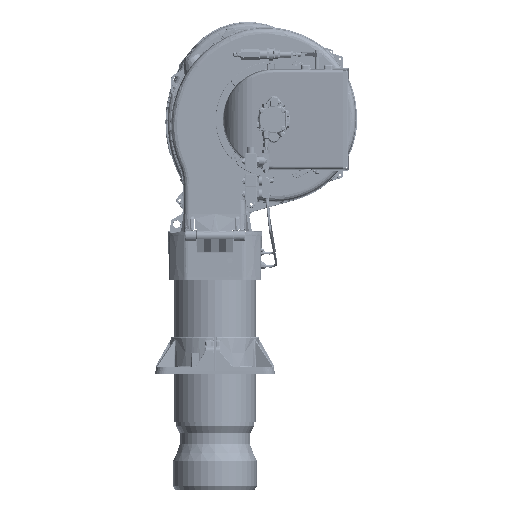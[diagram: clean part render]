
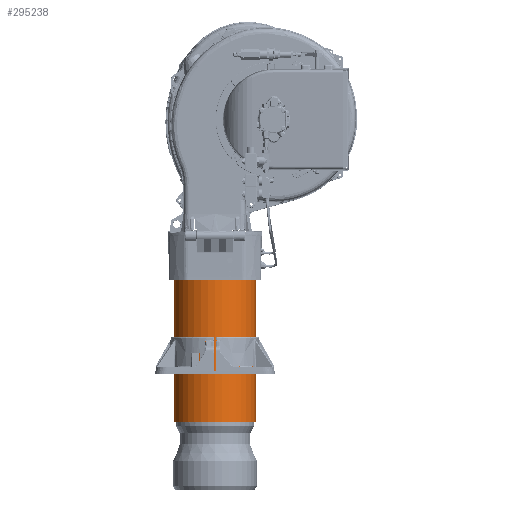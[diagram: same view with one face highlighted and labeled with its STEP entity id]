
A CAD part, left-side view. The second image highlights one B-rep face of the part: STEP entity #295238.
In plain terms, the highlighted cylindrical face has radius 109.55 mm (diameter 219.1 mm), a full revolution.
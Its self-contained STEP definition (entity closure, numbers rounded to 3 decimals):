
#1136 = EDGE_LOOP ( 'NONE', ( #249391 ) ) ;
#12163 = AXIS2_PLACEMENT_3D ( 'NONE', #137975, #298113, #173689 ) ;
#17107 = EDGE_CURVE ( 'NONE', #165706, #165706, #46940, .T. ) ;
#17202 = CARTESIAN_POINT ( 'NONE',  ( 0.001, -109.55, -8. ) ) ;
#46940 = CIRCLE ( 'NONE', #62716, 109.55 ) ;
#47882 = DIRECTION ( 'NONE',  ( 0., -1., 0. ) ) ;
#62716 = AXIS2_PLACEMENT_3D ( 'NONE', #278288, #133915, #47882 ) ;
#85986 = AXIS2_PLACEMENT_3D ( 'NONE', #259028, #320931, #374184 ) ;
#94757 = FACE_OUTER_BOUND ( 'NONE', #1136, .T. ) ;
#133915 = DIRECTION ( 'NONE',  ( 0., 0., -1. ) ) ;
#137975 = CARTESIAN_POINT ( 'NONE',  ( 0.001, 0., -385. ) ) ;
#162706 = CYLINDRICAL_SURFACE ( 'NONE', #12163, 109.55 ) ;
#165706 = VERTEX_POINT ( 'NONE', #357448 ) ;
#169819 = VERTEX_POINT ( 'NONE', #17202 ) ;
#171556 = ORIENTED_EDGE ( 'NONE', *, *, #199908, .T. ) ;
#173689 = DIRECTION ( 'NONE',  ( 0., 1., 0. ) ) ;
#195180 = CIRCLE ( 'NONE', #85986, 109.55 ) ;
#199908 = EDGE_CURVE ( 'NONE', #169819, #169819, #195180, .T. ) ;
#239758 = FACE_OUTER_BOUND ( 'NONE', #344579, .T. ) ;
#249391 = ORIENTED_EDGE ( 'NONE', *, *, #17107, .F. ) ;
#259028 = CARTESIAN_POINT ( 'NONE',  ( 0.001, 0., -8. ) ) ;
#278288 = CARTESIAN_POINT ( 'NONE',  ( 0.001, 0., -385. ) ) ;
#295238 = ADVANCED_FACE ( 'NONE', ( #94757, #239758 ), #162706, .T. ) ;
#298113 = DIRECTION ( 'NONE',  ( 0., 0., 1. ) ) ;
#320931 = DIRECTION ( 'NONE',  ( 0., 0., -1. ) ) ;
#344579 = EDGE_LOOP ( 'NONE', ( #171556 ) ) ;
#357448 = CARTESIAN_POINT ( 'NONE',  ( 0.001, -109.55, -385. ) ) ;
#374184 = DIRECTION ( 'NONE',  ( 0., -1., 0. ) ) ;
